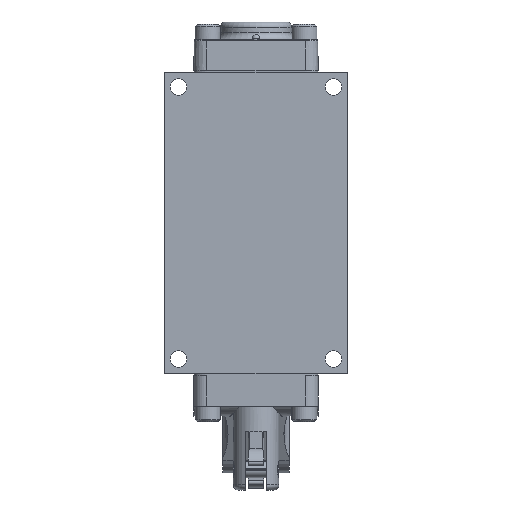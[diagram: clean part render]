
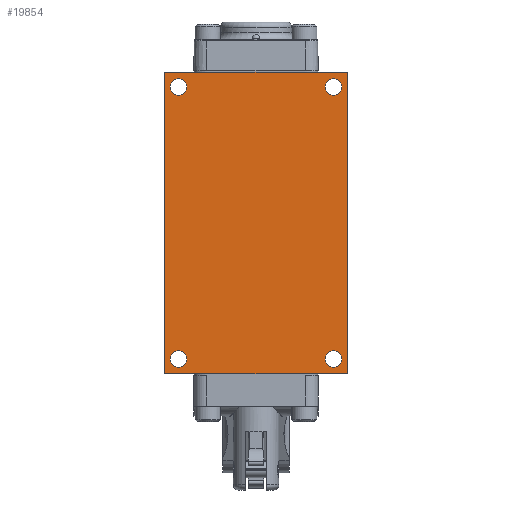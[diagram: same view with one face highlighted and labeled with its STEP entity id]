
A CAD part, front view. The second image highlights one B-rep face of the part: STEP entity #19854.
In plain terms, the highlighted planar face has unit normal (0, -1, 0).
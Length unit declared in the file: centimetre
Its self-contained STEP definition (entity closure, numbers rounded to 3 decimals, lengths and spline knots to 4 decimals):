
#868=LINE('',#29455,#2202);
#869=LINE('',#29457,#2203);
#870=LINE('',#29459,#2204);
#871=LINE('',#29460,#2205);
#2202=VECTOR('',#23729,9.4209);
#2203=VECTOR('',#23730,5.715);
#2204=VECTOR('',#23731,9.4209);
#2205=VECTOR('',#23732,5.715);
#3702=FACE_BOUND('',#6312,.T.);
#3703=FACE_BOUND('',#6313,.T.);
#3704=FACE_BOUND('',#6314,.T.);
#3705=FACE_BOUND('',#6315,.T.);
#4101=PLANE('',#21236);
#5018=FACE_OUTER_BOUND('',#6311,.T.);
#6311=EDGE_LOOP('',(#13852,#13853,#13854,#13855));
#6312=EDGE_LOOP('',(#13856));
#6313=EDGE_LOOP('',(#13857));
#6314=EDGE_LOOP('',(#13858));
#6315=EDGE_LOOP('',(#13859));
#7800=CIRCLE('',#21237,0.2578);
#7801=CIRCLE('',#21238,0.2578);
#7802=CIRCLE('',#21239,0.2578);
#7803=CIRCLE('',#21240,0.2578);
#8815=VERTEX_POINT('',#29453);
#8816=VERTEX_POINT('',#29454);
#8817=VERTEX_POINT('',#29456);
#8818=VERTEX_POINT('',#29458);
#8819=VERTEX_POINT('',#29461);
#8820=VERTEX_POINT('',#29463);
#8821=VERTEX_POINT('',#29465);
#8822=VERTEX_POINT('',#29467);
#10772=EDGE_CURVE('',#8815,#8816,#868,.T.);
#10773=EDGE_CURVE('',#8817,#8815,#869,.T.);
#10774=EDGE_CURVE('',#8818,#8817,#870,.T.);
#10775=EDGE_CURVE('',#8816,#8818,#871,.T.);
#10776=EDGE_CURVE('',#8819,#8819,#7800,.T.);
#10777=EDGE_CURVE('',#8820,#8820,#7801,.T.);
#10778=EDGE_CURVE('',#8821,#8821,#7802,.T.);
#10779=EDGE_CURVE('',#8822,#8822,#7803,.T.);
#13852=ORIENTED_EDGE('',*,*,#10772,.F.);
#13853=ORIENTED_EDGE('',*,*,#10773,.F.);
#13854=ORIENTED_EDGE('',*,*,#10774,.F.);
#13855=ORIENTED_EDGE('',*,*,#10775,.F.);
#13856=ORIENTED_EDGE('',*,*,#10776,.T.);
#13857=ORIENTED_EDGE('',*,*,#10777,.T.);
#13858=ORIENTED_EDGE('',*,*,#10778,.T.);
#13859=ORIENTED_EDGE('',*,*,#10779,.T.);
#19854=ADVANCED_FACE('',(#5018,#3702,#3703,#3704,#3705),#4101,.F.);
#21236=AXIS2_PLACEMENT_3D('',#29452,#23727,#23728);
#21237=AXIS2_PLACEMENT_3D('',#29462,#23733,#23734);
#21238=AXIS2_PLACEMENT_3D('',#29464,#23735,#23736);
#21239=AXIS2_PLACEMENT_3D('',#29466,#23737,#23738);
#21240=AXIS2_PLACEMENT_3D('',#29468,#23739,#23740);
#23727=DIRECTION('center_axis',(0.,1.,0.));
#23728=DIRECTION('ref_axis',(0.,0.,1.));
#23729=DIRECTION('',(0.,0.,1.));
#23730=DIRECTION('',(-1.,0.,0.));
#23731=DIRECTION('',(0.,0.,-1.));
#23732=DIRECTION('',(1.,0.,0.));
#23733=DIRECTION('center_axis',(0.,1.,0.));
#23734=DIRECTION('ref_axis',(-1.,0.,0.));
#23735=DIRECTION('center_axis',(0.,1.,0.));
#23736=DIRECTION('ref_axis',(-1.,0.,0.));
#23737=DIRECTION('center_axis',(0.,1.,0.));
#23738=DIRECTION('ref_axis',(-1.,0.,0.));
#23739=DIRECTION('center_axis',(0.,1.,0.));
#23740=DIRECTION('ref_axis',(-1.,0.,0.));
#29452=CARTESIAN_POINT('Origin',(0.,-1.6358,0.));
#29453=CARTESIAN_POINT('',(-2.8575,-1.6358,-4.7104));
#29454=CARTESIAN_POINT('',(-2.8575,-1.6358,4.7104));
#29455=CARTESIAN_POINT('',(-2.8575,-1.6358,-4.7104));
#29456=CARTESIAN_POINT('',(2.8575,-1.6358,-4.7104));
#29457=CARTESIAN_POINT('',(2.8575,-1.6358,-4.7104));
#29458=CARTESIAN_POINT('',(2.8575,-1.6358,4.7104));
#29459=CARTESIAN_POINT('',(2.8575,-1.6358,4.7104));
#29460=CARTESIAN_POINT('',(-2.8575,-1.6358,4.7104));
#29461=CARTESIAN_POINT('',(-2.1628,-1.6358,-4.2469));
#29462=CARTESIAN_POINT('Origin',(-2.4206,-1.6358,-4.2469));
#29463=CARTESIAN_POINT('',(-2.1628,-1.6358,4.2469));
#29464=CARTESIAN_POINT('Origin',(-2.4206,-1.6358,4.2469));
#29465=CARTESIAN_POINT('',(2.6784,-1.6358,-4.2469));
#29466=CARTESIAN_POINT('Origin',(2.4206,-1.6358,-4.2469));
#29467=CARTESIAN_POINT('',(2.6784,-1.6358,4.2469));
#29468=CARTESIAN_POINT('Origin',(2.4206,-1.6358,4.2469));
